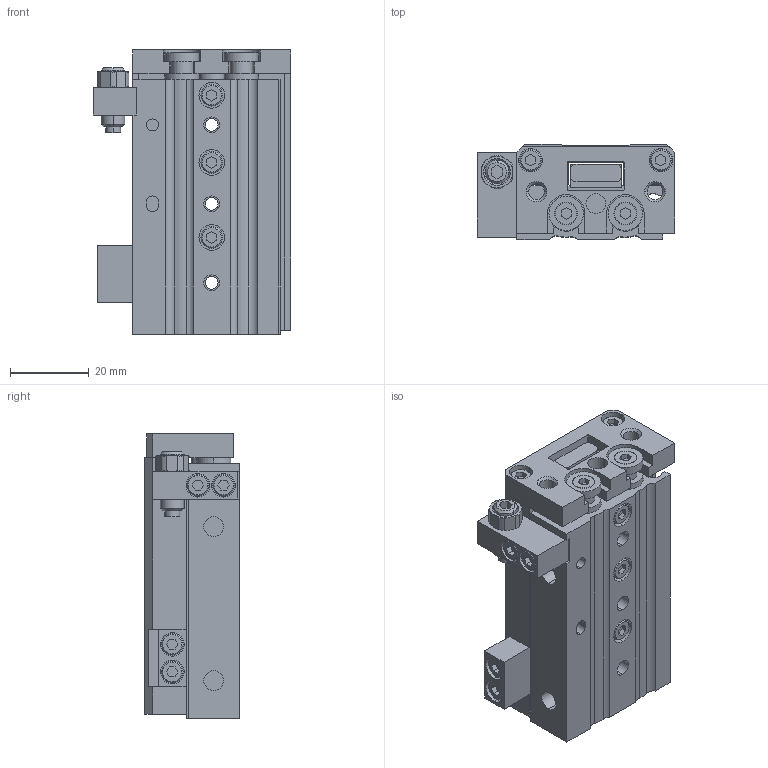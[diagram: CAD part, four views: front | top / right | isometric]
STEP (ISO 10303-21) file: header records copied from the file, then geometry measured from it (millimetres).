
FILE_DESCRIPTION (( 'STEP AP214' ), '1' );
FILE_NAME ('MXS8-30AS.step.step', '2023-01-05T09:05:30', ( '' ), ( '' ), 'SwSTEP 2.0', 'SolidWorks 2022', '' );
FILE_SCHEMA (( 'AUTOMOTIVE_DESIGN' ));
Length unit declared in the file: millimetre
Products named in the file (9): MXS8-30AS.step_MXS_Shock_8A; MXS8-30AS.step_MXS_A+B Block_8A; MXS8-30AS.step; MXS8-30AS.step_MXS_FrontPlate_8; MXS8-30AS.step_MXS_Table_8-30; MXS8-30AS.step_MXS_Rod_8-30; MXS8-30AS.step_MXS_AS+AT Block_8AS; MXS8-30AS.step_MXS_Rail_8-30; MXS8-30AS.step_MXS_Body_8-30
Assembly tree (9 placements, depth 2):
  MXS8-30AS.step
    MXS8-30AS.step_MXS_Body_8-30
    MXS8-30AS.step_MXS_Rail_8-30
    MXS8-30AS.step_MXS_Table_8-30
    MXS8-30AS.step_MXS_FrontPlate_8
    MXS8-30AS.step_MXS_Rod_8-30  x2
    MXS8-30AS.step_MXS_A+B Block_8A
    MXS8-30AS.step_MXS_AS+AT Block_8AS
    MXS8-30AS.step_MXS_Shock_8A
Bounding box: 50 x 24 x 72 mm (x, y, z)
Volume: 55655.4 mm3; surface area: 31035.3 mm2
Topology: 9 solids, 9 shells, 531 faces, 1256 edges, 820 vertices
Faces by surface type: plane 279, cylinder 198, cone 54
Entity records: 15135 total; most frequent: DIRECTION 2624, CARTESIAN_POINT 2562, ORIENTED_EDGE 2392, EDGE_CURVE 1196, AXIS2_PLACEMENT_3D 938, VERTEX_POINT 780, VECTOR 748, LINE 748
